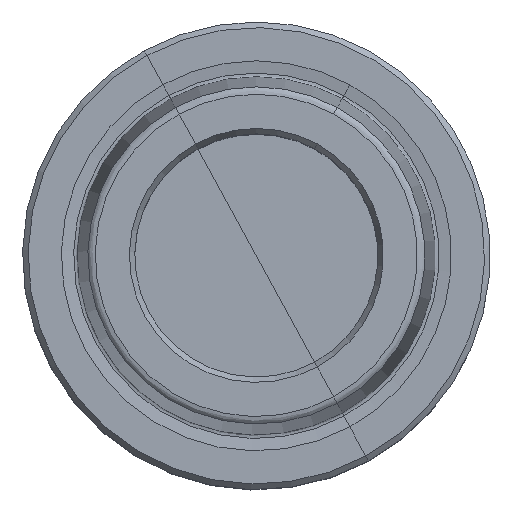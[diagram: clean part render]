
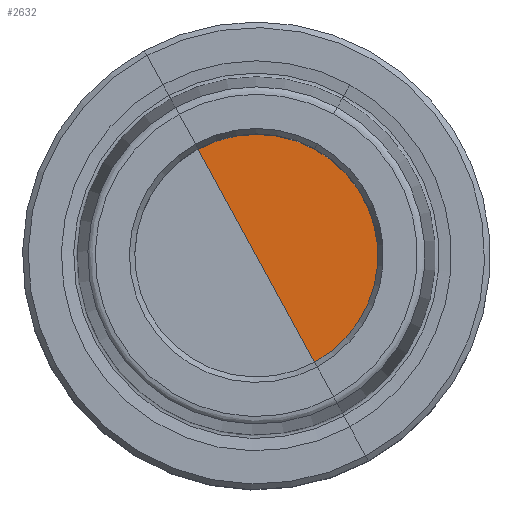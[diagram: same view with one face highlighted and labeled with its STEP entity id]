
A CAD part, top view. The second image highlights one B-rep face of the part: STEP entity #2632.
In plain terms, the highlighted planar face has unit normal (0, 0, 1).
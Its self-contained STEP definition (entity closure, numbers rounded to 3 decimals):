
#35=AXIS2_PLACEMENT_3D('Plane Axis2P3D',#32,#33,#34) ;
#1702=AXIS2_PLACEMENT_3D('Circle Axis2P3D',#1700,#1701,$) ;
#2609=AXIS2_PLACEMENT_3D('Circle Axis2P3D',#2607,#2608,$) ;
#32=CARTESIAN_POINT('Axis2P3D Location',(0.,-11.8,-10.)) ;
#37=CARTESIAN_POINT('Line Origine',(0.,0.,-10.)) ;
#41=CARTESIAN_POINT('Vertex',(6.233,-11.409,-10.)) ;
#43=CARTESIAN_POINT('Vertex',(-6.233,11.409,-10.)) ;
#1700=CARTESIAN_POINT('Axis2P3D Location',(0.,0.,-10.)) ;
#1704=CARTESIAN_POINT('Vertex',(6.233,11.409,-10.)) ;
#2607=CARTESIAN_POINT('Axis2P3D Location',(0.,0.,-10.)) ;
#33=DIRECTION('Axis2P3D Direction',(0.,0.,-1.)) ;
#34=DIRECTION('Axis2P3D XDirection',(-1.,0.,0.)) ;
#38=DIRECTION('Vector Direction',(0.479,-0.878,0.)) ;
#1701=DIRECTION('Axis2P3D Direction',(0.,0.,1.)) ;
#2608=DIRECTION('Axis2P3D Direction',(0.,0.,1.)) ;
#39=VECTOR('Line Direction',#38,1.) ;
#2628=ORIENTED_EDGE('',*,*,#2611,.T.) ;
#2629=ORIENTED_EDGE('',*,*,#1706,.T.) ;
#2630=ORIENTED_EDGE('',*,*,#45,.F.) ;
#2632=ADVANCED_FACE('NOCUT',(#2631),#36,.F.) ;
#1703=CIRCLE('generated circle',#1702,13.) ;
#2610=CIRCLE('generated circle',#2609,13.) ;
#45=EDGE_CURVE('',#42,#44,#40,.F.) ;
#1706=EDGE_CURVE('',#1705,#44,#1703,.T.) ;
#2611=EDGE_CURVE('',#42,#1705,#2610,.T.) ;
#2627=EDGE_LOOP('',(#2628,#2629,#2630)) ;
#2631=FACE_OUTER_BOUND('',#2627,.T.) ;
#40=LINE('Line',#37,#39) ;
#36=PLANE('',#35) ;
#42=VERTEX_POINT('',#41) ;
#44=VERTEX_POINT('',#43) ;
#1705=VERTEX_POINT('',#1704) ;
